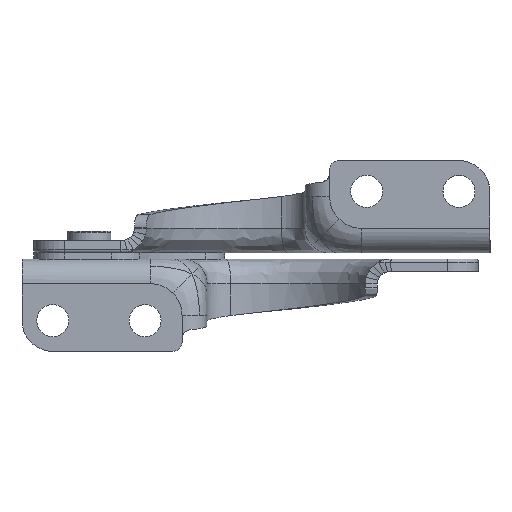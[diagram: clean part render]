
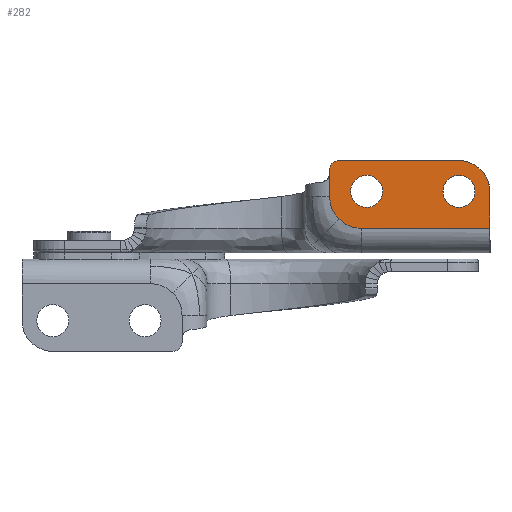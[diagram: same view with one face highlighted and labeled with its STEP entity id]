
A CAD part, left-side view. The second image highlights one B-rep face of the part: STEP entity #282.
In plain terms, the highlighted planar face has unit normal (-1, 0.003, 0) as drawn and (0, -1, 0) by its records, which use the part's own axes.
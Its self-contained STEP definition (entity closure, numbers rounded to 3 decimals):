
#161 = EDGE_LOOP ( 'NONE', ( #2794, #6595 ) ) ;
#181 = CARTESIAN_POINT ( 'NONE',  ( 36.959, -57.275, 7.5 ) ) ;
#217 = CARTESIAN_POINT ( 'NONE',  ( 41.459, -57.275, 9.4 ) ) ;
#257 = ORIENTED_EDGE ( 'NONE', *, *, #1691, .F. ) ;
#282 = ADVANCED_FACE ( 'NONE', ( #933, #8005, #4491 ), #7307, .F. ) ;
#317 = VERTEX_POINT ( 'NONE', #8968 ) ;
#467 = DIRECTION ( 'NONE',  ( 0., 0., -1. ) ) ;
#512 = VERTEX_POINT ( 'NONE', #8124 ) ;
#806 = ORIENTED_EDGE ( 'NONE', *, *, #7170, .F. ) ;
#863 = CARTESIAN_POINT ( 'NONE',  ( 61.459, -57.275, 6. ) ) ;
#889 = CARTESIAN_POINT ( 'NONE',  ( 35.461, -57.275, 14.918 ) ) ;
#933 = FACE_OUTER_BOUND ( 'NONE', #1271, .T. ) ;
#934 = CARTESIAN_POINT ( 'NONE',  ( 35.461, -57.275, 14.942 ) ) ;
#1113 =( BOUNDED_CURVE ( )  B_SPLINE_CURVE ( 3, ( #1362, #5795, #3640, #8542 ),
 .UNSPECIFIED., .F., .F. ) 
 B_SPLINE_CURVE_WITH_KNOTS ( ( 4, 4 ),
 ( 0., 1. ),
 .UNSPECIFIED. ) 
 CURVE ( )  GEOMETRIC_REPRESENTATION_ITEM ( )  RATIONAL_B_SPLINE_CURVE ( ( 1., 0.949, 0.949, 1. ) ) 
 REPRESENTATION_ITEM ( '' )  );
#1132 = AXIS2_PLACEMENT_3D ( 'NONE', #3725, #1648, #7934 ) ;
#1156 = CARTESIAN_POINT ( 'NONE',  ( 35.461, -57.275, 13.477 ) ) ;
#1187 = EDGE_CURVE ( 'NONE', #6770, #4556, #1113, .T. ) ;
#1194 = EDGE_CURVE ( 'NONE', #3412, #7496, #6835, .T. ) ;
#1225 = ORIENTED_EDGE ( 'NONE', *, *, #1187, .F. ) ;
#1271 = EDGE_LOOP ( 'NONE', ( #4420, #5158, #1225, #5742, #1802, #2773, #806, #2169, #8769, #257 ) ) ;
#1288 = CIRCLE ( 'NONE', #6454, 1.5 ) ;
#1347 = DIRECTION ( 'NONE',  ( 0., 1., 0. ) ) ;
#1362 = CARTESIAN_POINT ( 'NONE',  ( 40.581, -57.275, 6. ) ) ;
#1461 = DIRECTION ( 'NONE',  ( 0., 0., -1. ) ) ;
#1495 = EDGE_CURVE ( 'NONE', #7940, #7474, #7399, .T. ) ;
#1499 = CARTESIAN_POINT ( 'NONE',  ( 35.459, -57.275, 2. ) ) ;
#1542 = CARTESIAN_POINT ( 'NONE',  ( 35.459, -57.275, 11.121 ) ) ;
#1591 = CARTESIAN_POINT ( 'NONE',  ( 61.459, -57.275, 2. ) ) ;
#1607 = DIRECTION ( 'NONE',  ( 0., -1., 0. ) ) ;
#1608 = DIRECTION ( 'NONE',  ( 0., -1., 0. ) ) ;
#1648 = DIRECTION ( 'NONE',  ( 0., -1., 0. ) ) ;
#1679 = CARTESIAN_POINT ( 'NONE',  ( 36.959, -57.275, 7.5 ) ) ;
#1691 = EDGE_CURVE ( 'NONE', #5012, #7229, #3691, .T. ) ;
#1716 = AXIS2_PLACEMENT_3D ( 'NONE', #1591, #6564, #3755 ) ;
#1736 = CARTESIAN_POINT ( 'NONE',  ( 41.459, -57.275, 12. ) ) ;
#1741 = EDGE_CURVE ( 'NONE', #4678, #5012, #7223, .T. ) ;
#1802 = ORIENTED_EDGE ( 'NONE', *, *, #1495, .F. ) ;
#1847 = EDGE_CURVE ( 'NONE', #7229, #317, #6612, .T. ) ;
#1978 = ORIENTED_EDGE ( 'NONE', *, *, #6397, .F. ) ;
#2169 = ORIENTED_EDGE ( 'NONE', *, *, #6011, .F. ) ;
#2195 = CARTESIAN_POINT ( 'NONE',  ( 56.459, -57.275, 9.4 ) ) ;
#2225 = AXIS2_PLACEMENT_3D ( 'NONE', #2994, #1607, #5107 ) ;
#2227 = DIRECTION ( 'NONE',  ( -1., 0., 0. ) ) ;
#2340 = EDGE_CURVE ( 'NONE', #512, #9002, #4383, .T. ) ;
#2469 = DIRECTION ( 'NONE',  ( 0., 0., 1. ) ) ;
#2491 = DIRECTION ( 'NONE',  ( 1., 0., 0. ) ) ;
#2499 = CARTESIAN_POINT ( 'NONE',  ( 36.961, -57.275, 17. ) ) ;
#2770 = CARTESIAN_POINT ( 'NONE',  ( 40.581, -57.275, 6. ) ) ;
#2773 = ORIENTED_EDGE ( 'NONE', *, *, #6485, .F. ) ;
#2794 = ORIENTED_EDGE ( 'NONE', *, *, #2340, .F. ) ;
#2873 = AXIS2_PLACEMENT_3D ( 'NONE', #7938, #1608, #4415 ) ;
#2994 = CARTESIAN_POINT ( 'NONE',  ( 56.459, -57.275, 12. ) ) ;
#3101 = EDGE_LOOP ( 'NONE', ( #1978, #5602 ) ) ;
#3185 = CARTESIAN_POINT ( 'NONE',  ( 61.459, -57.275, 17. ) ) ;
#3249 = VECTOR ( 'NONE', #3668, 1000. ) ;
#3309 = EDGE_CURVE ( 'NONE', #7474, #6770, #6356, .T. ) ;
#3412 = VERTEX_POINT ( 'NONE', #217 ) ;
#3539 = CARTESIAN_POINT ( 'NONE',  ( 35.459, -57.275, 14.872 ) ) ;
#3635 = EDGE_CURVE ( 'NONE', #9002, #512, #6177, .T. ) ;
#3640 = CARTESIAN_POINT ( 'NONE',  ( 37.933, -57.275, 6.527 ) ) ;
#3668 = DIRECTION ( 'NONE',  ( 0., 0., 1. ) ) ;
#3691 = B_SPLINE_CURVE_WITH_KNOTS ( 'NONE', 3,
 ( #7775, #5640, #889, #934 ),
 .UNSPECIFIED., .F., .F.,
 ( 4, 4 ),
 ( 0., 0. ),
 .UNSPECIFIED. ) ;
#3725 = CARTESIAN_POINT ( 'NONE',  ( 56.459, -57.275, 12. ) ) ;
#3755 = DIRECTION ( 'NONE',  ( 0., 0., 1. ) ) ;
#3947 = CARTESIAN_POINT ( 'NONE',  ( 56.459, -57.275, 17. ) ) ;
#3978 = VECTOR ( 'NONE', #467, 1000. ) ;
#3984 = CARTESIAN_POINT ( 'NONE',  ( 61.459, -57.275, 2. ) ) ;
#4006 = VERTEX_POINT ( 'NONE', #3947 ) ;
#4225 = DIRECTION ( 'NONE',  ( 0., 1., 0. ) ) ;
#4352 =( BOUNDED_CURVE ( )  B_SPLINE_CURVE ( 3, ( #1679, #7262, #6562, #1542 ),
 .UNSPECIFIED., .F., .F. ) 
 B_SPLINE_CURVE_WITH_KNOTS ( ( 4, 4 ),
 ( 0., 1. ),
 .UNSPECIFIED. ) 
 CURVE ( )  GEOMETRIC_REPRESENTATION_ITEM ( )  RATIONAL_B_SPLINE_CURVE ( ( 1., 0.949, 0.949, 1. ) ) 
 REPRESENTATION_ITEM ( '' )  );
#4383 = CIRCLE ( 'NONE', #1132, 2.6 ) ;
#4384 = LINE ( 'NONE', #3185, #6997 ) ;
#4415 = DIRECTION ( 'NONE',  ( 0., 0., 1. ) ) ;
#4420 = ORIENTED_EDGE ( 'NONE', *, *, #1741, .F. ) ;
#4491 = FACE_BOUND ( 'NONE', #161, .T. ) ;
#4556 = VERTEX_POINT ( 'NONE', #181 ) ;
#4608 = VERTEX_POINT ( 'NONE', #2499 ) ;
#4633 = CIRCLE ( 'NONE', #7296, 5. ) ;
#4678 = VERTEX_POINT ( 'NONE', #9046 ) ;
#5012 = VERTEX_POINT ( 'NONE', #3539 ) ;
#5107 = DIRECTION ( 'NONE',  ( 0., 0., 1. ) ) ;
#5158 = ORIENTED_EDGE ( 'NONE', *, *, #8999, .F. ) ;
#5251 = VECTOR ( 'NONE', #2227, 1000. ) ;
#5333 = VECTOR ( 'NONE', #2469, 1000. ) ;
#5423 = CARTESIAN_POINT ( 'NONE',  ( 35.461, -57.275, 14.942 ) ) ;
#5451 = CARTESIAN_POINT ( 'NONE',  ( 56.459, -57.275, 12. ) ) ;
#5602 = ORIENTED_EDGE ( 'NONE', *, *, #1194, .F. ) ;
#5640 = CARTESIAN_POINT ( 'NONE',  ( 35.46, -57.275, 14.895 ) ) ;
#5742 = ORIENTED_EDGE ( 'NONE', *, *, #3309, .F. ) ;
#5795 = CARTESIAN_POINT ( 'NONE',  ( 39.204, -57.275, 6. ) ) ;
#5820 = CIRCLE ( 'NONE', #6551, 2.6 ) ;
#6011 = EDGE_CURVE ( 'NONE', #317, #4608, #1288, .T. ) ;
#6023 = CARTESIAN_POINT ( 'NONE',  ( 36.961, -57.275, 15.5 ) ) ;
#6177 = CIRCLE ( 'NONE', #2225, 2.6 ) ;
#6356 = LINE ( 'NONE', #2770, #5251 ) ;
#6397 = EDGE_CURVE ( 'NONE', #7496, #3412, #5820, .T. ) ;
#6454 = AXIS2_PLACEMENT_3D ( 'NONE', #6023, #4225, #1461 ) ;
#6485 = EDGE_CURVE ( 'NONE', #4006, #7940, #4633, .T. ) ;
#6551 = AXIS2_PLACEMENT_3D ( 'NONE', #1736, #6623, #6667 ) ;
#6562 = CARTESIAN_POINT ( 'NONE',  ( 35.459, -57.275, 9.745 ) ) ;
#6564 = DIRECTION ( 'NONE',  ( 0., 1., 0. ) ) ;
#6595 = ORIENTED_EDGE ( 'NONE', *, *, #3635, .F. ) ;
#6612 = LINE ( 'NONE', #1156, #5333 ) ;
#6623 = DIRECTION ( 'NONE',  ( 0., -1., 0. ) ) ;
#6667 = DIRECTION ( 'NONE',  ( 0., 0., 1. ) ) ;
#6770 = VERTEX_POINT ( 'NONE', #7569 ) ;
#6835 = CIRCLE ( 'NONE', #2873, 2.6 ) ;
#6997 = VECTOR ( 'NONE', #2491, 1000. ) ;
#7170 = EDGE_CURVE ( 'NONE', #4608, #4006, #4384, .T. ) ;
#7223 = LINE ( 'NONE', #1499, #3249 ) ;
#7229 = VERTEX_POINT ( 'NONE', #5423 ) ;
#7262 = CARTESIAN_POINT ( 'NONE',  ( 35.986, -57.275, 8.473 ) ) ;
#7296 = AXIS2_PLACEMENT_3D ( 'NONE', #5451, #1347, #8419 ) ;
#7307 = PLANE ( 'NONE',  #1716 ) ;
#7399 = LINE ( 'NONE', #3984, #3978 ) ;
#7474 = VERTEX_POINT ( 'NONE', #863 ) ;
#7496 = VERTEX_POINT ( 'NONE', #8635 ) ;
#7569 = CARTESIAN_POINT ( 'NONE',  ( 40.581, -57.275, 6. ) ) ;
#7775 = CARTESIAN_POINT ( 'NONE',  ( 35.459, -57.275, 14.872 ) ) ;
#7934 = DIRECTION ( 'NONE',  ( 0., 0., 1. ) ) ;
#7938 = CARTESIAN_POINT ( 'NONE',  ( 41.459, -57.275, 12. ) ) ;
#7940 = VERTEX_POINT ( 'NONE', #8973 ) ;
#8005 = FACE_BOUND ( 'NONE', #3101, .T. ) ;
#8124 = CARTESIAN_POINT ( 'NONE',  ( 56.459, -57.275, 14.6 ) ) ;
#8419 = DIRECTION ( 'NONE',  ( 1., 0., 0. ) ) ;
#8542 = CARTESIAN_POINT ( 'NONE',  ( 36.959, -57.275, 7.5 ) ) ;
#8635 = CARTESIAN_POINT ( 'NONE',  ( 41.459, -57.275, 14.6 ) ) ;
#8769 = ORIENTED_EDGE ( 'NONE', *, *, #1847, .F. ) ;
#8968 = CARTESIAN_POINT ( 'NONE',  ( 35.461, -57.275, 15.5 ) ) ;
#8973 = CARTESIAN_POINT ( 'NONE',  ( 61.459, -57.275, 12. ) ) ;
#8999 = EDGE_CURVE ( 'NONE', #4556, #4678, #4352, .T. ) ;
#9002 = VERTEX_POINT ( 'NONE', #2195 ) ;
#9046 = CARTESIAN_POINT ( 'NONE',  ( 35.459, -57.275, 11.121 ) ) ;
